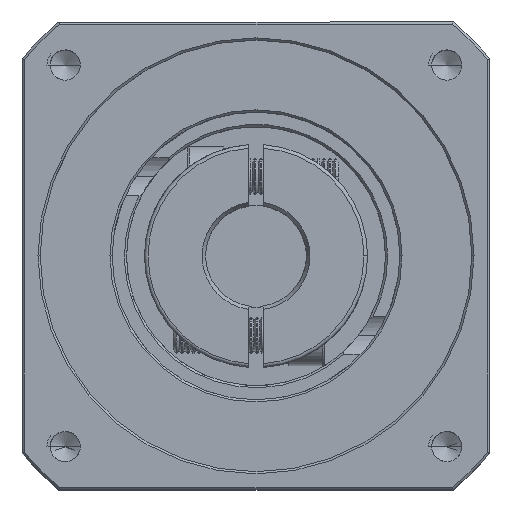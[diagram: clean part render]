
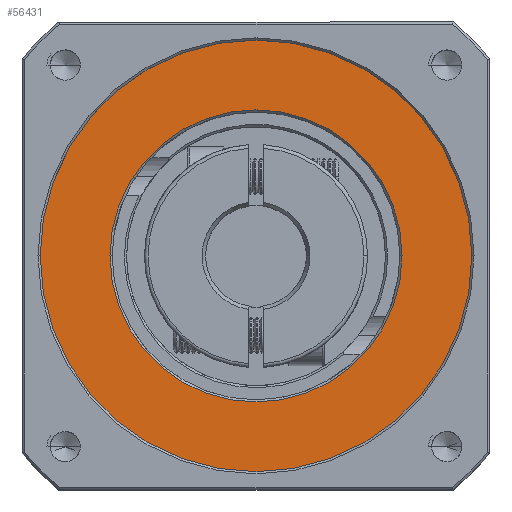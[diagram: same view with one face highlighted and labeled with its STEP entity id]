
A CAD part, top view. The second image highlights one B-rep face of the part: STEP entity #56431.
In plain terms, the highlighted planar face has unit normal (0, 0, 1).
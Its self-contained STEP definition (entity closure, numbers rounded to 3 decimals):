
#3883 = DIRECTION ( 'NONE',  ( 1., 0., 0. ) ) ;
#4042 = VERTEX_POINT ( 'NONE', #64547 ) ;
#4996 = DIRECTION ( 'NONE',  ( 1., 0., 0. ) ) ;
#5297 = DIRECTION ( 'NONE',  ( 0., 0., -1. ) ) ;
#8170 = CARTESIAN_POINT ( 'NONE',  ( -54.657, 22.264, 44.201 ) ) ;
#9810 = CARTESIAN_POINT ( 'NONE',  ( -74.957, 22.264, 44.201 ) ) ;
#10564 = EDGE_CURVE ( 'NONE', #65945, #80812, #49754, .T. ) ;
#12370 = CARTESIAN_POINT ( 'NONE',  ( -44.957, 22.264, 44.201 ) ) ;
#15646 = VERTEX_POINT ( 'NONE', #12370 ) ;
#17212 = DIRECTION ( 'NONE',  ( 1., 0., 0. ) ) ;
#17532 = AXIS2_PLACEMENT_3D ( 'NONE', #9810, #61256, #17212 ) ;
#19171 = PLANE ( 'NONE',  #42131 ) ;
#26412 = EDGE_LOOP ( 'NONE', ( #47352, #41153 ) ) ;
#27220 = DIRECTION ( 'NONE',  ( 0., 0., 1. ) ) ;
#27453 = EDGE_CURVE ( 'NONE', #4042, #15646, #51904, .T. ) ;
#30841 = FACE_OUTER_BOUND ( 'NONE', #52238, .T. ) ;
#39078 = AXIS2_PLACEMENT_3D ( 'NONE', #92897, #48967, #4996 ) ;
#40045 = ORIENTED_EDGE ( 'NONE', *, *, #27453, .T. ) ;
#41153 = ORIENTED_EDGE ( 'NONE', *, *, #10564, .T. ) ;
#42131 = AXIS2_PLACEMENT_3D ( 'NONE', #71219, #27220, #78578 ) ;
#45236 = CARTESIAN_POINT ( 'NONE',  ( -95.257, 22.264, 44.201 ) ) ;
#47352 = ORIENTED_EDGE ( 'NONE', *, *, #51004, .T. ) ;
#47857 = DIRECTION ( 'NONE',  ( 0., 0., -1. ) ) ;
#48967 = DIRECTION ( 'NONE',  ( 0., 0., 1. ) ) ;
#49276 = CARTESIAN_POINT ( 'NONE',  ( -74.957, 22.264, 44.201 ) ) ;
#49601 = CIRCLE ( 'NONE', #39078, 30. ) ;
#49754 = CIRCLE ( 'NONE', #69287, 20.3 ) ;
#51004 = EDGE_CURVE ( 'NONE', #80812, #65945, #81438, .T. ) ;
#51904 = CIRCLE ( 'NONE', #17532, 30. ) ;
#52238 = EDGE_LOOP ( 'NONE', ( #92817, #40045 ) ) ;
#56431 = ADVANCED_FACE ( 'NONE', ( #67672, #30841 ), #19171, .T. ) ;
#56726 = DIRECTION ( 'NONE',  ( 1., 0., 0. ) ) ;
#59423 = EDGE_CURVE ( 'NONE', #15646, #4042, #49601, .T. ) ;
#61256 = DIRECTION ( 'NONE',  ( 0., 0., 1. ) ) ;
#64547 = CARTESIAN_POINT ( 'NONE',  ( -104.957, 22.264, 44.201 ) ) ;
#65945 = VERTEX_POINT ( 'NONE', #45236 ) ;
#67672 = FACE_BOUND ( 'NONE', #26412, .T. ) ;
#69287 = AXIS2_PLACEMENT_3D ( 'NONE', #49276, #5297, #56726 ) ;
#71219 = CARTESIAN_POINT ( 'NONE',  ( -74.957, 22.264, 44.201 ) ) ;
#78578 = DIRECTION ( 'NONE',  ( 1., 0., 0. ) ) ;
#80812 = VERTEX_POINT ( 'NONE', #8170 ) ;
#81438 = CIRCLE ( 'NONE', #87655, 20.3 ) ;
#87655 = AXIS2_PLACEMENT_3D ( 'NONE', #91795, #47857, #3883 ) ;
#91795 = CARTESIAN_POINT ( 'NONE',  ( -74.957, 22.264, 44.201 ) ) ;
#92817 = ORIENTED_EDGE ( 'NONE', *, *, #59423, .T. ) ;
#92897 = CARTESIAN_POINT ( 'NONE',  ( -74.957, 22.264, 44.201 ) ) ;
